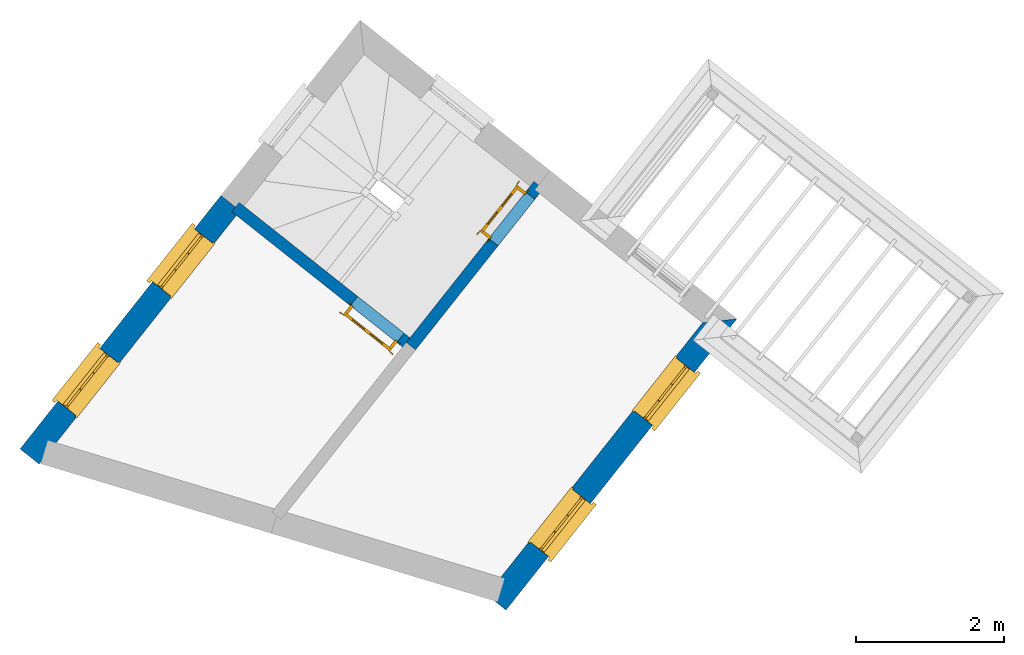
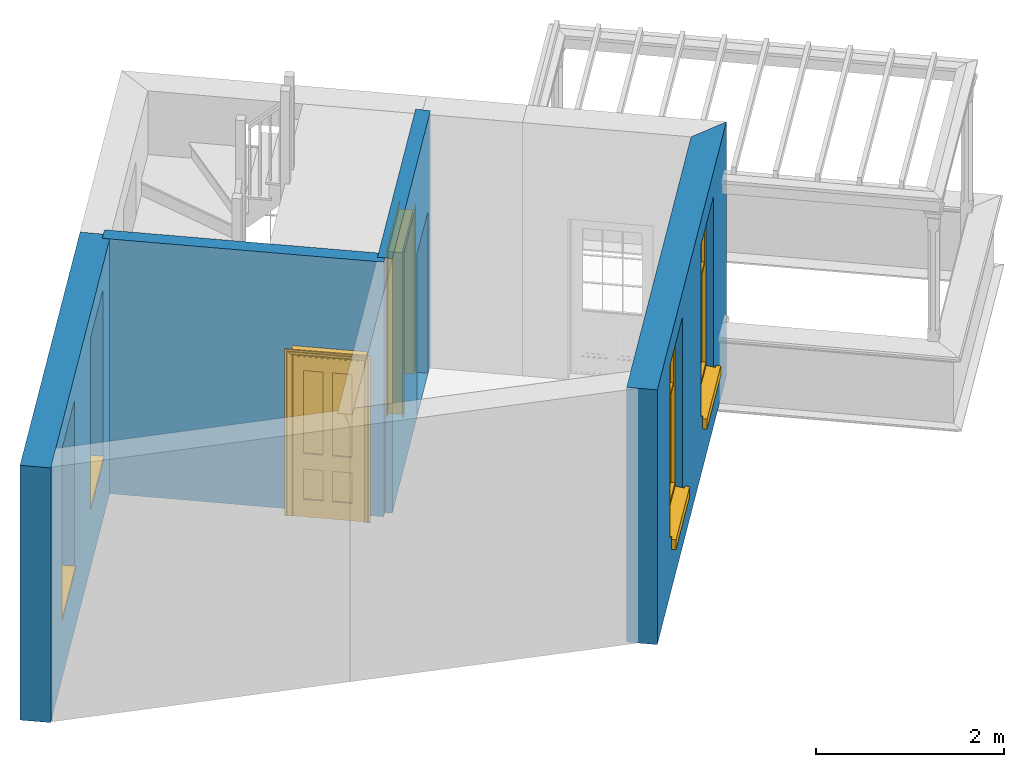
# One storey, part 2 of 6: 4 walls, 4 windows, 2 doors, 6 openings.
"""IFC4 building model written with IfcOpenShell, lengths in metres."""

from ifc_helpers import new_model, si_unit, frame, origin, origin_with_axes, place, context, subcontext, project, spatial, polyline, outline, extrude, faceted_brep, source, transform, mapped, material, layer, layer_set, layer_usage, type_object, type_shapes, element, fill, save


model = new_model("IFC4")

# Units and contexts
model_context = context("Model", 3, world=origin_with_axes())
body_context = subcontext(model_context, "Body", "Model", "MODEL_VIEW")
ifc_project = project(units=[si_unit("PLANEANGLEUNIT", "RADIAN"), si_unit("MASSUNIT", "GRAM", prefix="KILO"), si_unit("FORCEUNIT", "NEWTON", prefix="KILO"), si_unit("LENGTHUNIT", "METRE"), si_unit("AREAUNIT", "SQUARE_METRE"), si_unit("VOLUMEUNIT", "CUBIC_METRE")], contexts=[model_context, model_context])

# Sites, building, storey
site_1_placement = place(None, origin_with_axes())
site_1 = spatial("IfcSite", under=ifc_project, at=site_1_placement, Name="Tamar")
site_2_placement = place(site_1_placement, origin_with_axes())
site_2 = spatial("IfcSite", under=site_1, at=site_2_placement, Name="Site plot-5", CompositionType="ELEMENT")
building_placement = place(None, origin_with_axes())
building = spatial("IfcBuilding", under=site_2, at=building_placement, Name="Building plot-5", CompositionType="ELEMENT")
storey_placement = place(None, frame((0.0, 0.0, 26.85), z_axis=(0.0, 0.0, 1.0), x_axis=(1.0, 0.0, 0.0)))
storey = spatial("IfcBuildingStorey", under=building, at=storey_placement, Name="plot-5 1", CompositionType="ELEMENT", Elevation=26.85)

# Wall, openings, windows
ifc_material_1 = material(Name="Masonry")
ifc_layer_1 = layer(ifc_material_1, 0.33, ventilated=False)
ifc_layer_set_1 = layer_set([ifc_layer_1], Name="exterior_0.08_0.25")
ifc_layer_usage_1 = layer_usage(ifc_layer_set_1, "AXIS2", "POSITIVE", -0.25)
wall_type_1 = type_object("IfcWallType", Name="exterior_0.08_0.25", PredefinedType="SOLIDWALL", material=ifc_layer_set_1)
wall_1_placement = place(storey_placement, frame((231.403804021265, 270.295503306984, 0.0), z_axis=(0.0, 0.0, 1.0), x_axis=(0.621192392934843, 0.783658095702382, 0.0)))
wall_1 = element("IfcWall", 1, at=wall_1_placement, inside=storey, type_object=wall_type_1, material=ifc_layer_usage_1, Name="exterior", context=body_context, shape_type="SweptSolid", body=[
    extrude(outline(polyline([(-0.249999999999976, 0.0800000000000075), (-0.249999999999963, -0.249999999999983), (4.7647319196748, -0.249999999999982), (4.43473191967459, 0.0799999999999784), (-0.249999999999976, 0.0800000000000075)])), origin_with_axes(), (0.0, 0.0, 1.0), 3.3),
])
opening_1_placement = place(wall_1_placement, frame((0.673682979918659, 0.0, 0.75)))
opening_1 = element("IfcOpeningElement", 2, at=opening_1_placement, cuts=wall_1, Name="My Opening", ObjectType="Opening", context=body_context, shape_type="SweptSolid", body=[
    extrude(outline(polyline([(0.0, -0.269999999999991), (0.910000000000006, -0.270000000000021), (0.910000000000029, 1.1), (2.20934381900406e-14, 1.10000000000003), (0.0, -0.269999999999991)])), origin_with_axes(), (0.0, 0.0, 1.0), 2.23),
])
opening_2_placement = place(wall_1_placement, frame((2.93104893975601, 0.0, 0.75)))
opening_2 = element("IfcOpeningElement", 3, at=opening_2_placement, cuts=wall_1, Name="My Opening", ObjectType="Opening", context=body_context, shape_type="SweptSolid", body=[
    extrude(outline(polyline([(0.0, -0.269999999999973), (0.910000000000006, -0.270000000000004), (0.910000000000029, 1.10000000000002), (2.22044604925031e-14, 1.10000000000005), (0.0, -0.269999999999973)])), origin_with_axes(), (0.0, 0.0, 1.0), 2.23),
])
window_type = type_object("IfcWindowType", Name="sash_big_taller", PartitioningType="DOUBLE_PANEL_HORIZONTAL", PredefinedType="NOTDEFINED")
shared_shape_1 = source(origin(), body_context, "Body", "Brep", [
    faceted_brep([(0.033125, 0.145, 1.385209), (0.01, 0.145, 1.385209), (0.033125, 0.145, 1.786042), (0.876875, 0.145, 1.385209), (0.876875, 0.145, 1.786042), (0.9, 0.145, 1.385209), (0.876875, 0.145, 1.796042), (0.876875, 0.145, 2.196875), (0.9, 0.145, 2.22), (0.033125, 0.145, 2.196875), (0.033125, 0.145, 1.796042), (0.01, 0.145, 2.22), (0.876875, 0.115, 1.786042), (0.876875, 0.115, 1.385209), (0.9, 0.115, 1.347084), (0.033125, 0.115, 2.196875), (0.01, 0.115, 2.22), (0.033125, 0.115, 1.796042), (0.01, 0.115, 1.347084), (0.033125, 0.115, 1.385209), (0.033125, 0.115, 1.786042), (0.876875, 0.115, 2.196875), (0.876875, 0.115, 1.796042), (0.9, 0.115, 2.22), (0.033125, 0.145, 1.347084), (0.01, 0.145, 1.347084), (0.033125, 0.145, 0.94625), (0.876875, 0.145, 1.347084), (0.876875, 0.145, 0.94625), (0.9, 0.145, 1.347084), (0.876875, 0.145, 0.52625), (0.876875, 0.145, 0.125417), (0.9, 0.145, 0.077167), (0.033125, 0.145, 0.125417), (0.033125, 0.145, 0.52625), (0.01, 0.145, 0.077167), (-0.0425, 0.0, 0.01), (-0.0425, -0.05, 0.001667), (0.0, 0.0, 0.01), (0.9525, 0.0, 0.01), (0.91, 0.0, 0.01), (0.9525, -0.05, 0.001667), (-0.02, 0.33, 0.077167), (0.0, 0.33, 0.077167), (-0.02, 0.36, 0.077167), (0.0, 0.19, 0.077167), (0.01, 0.19, 0.077167), (0.91, 0.19, 0.077167), (0.91, 0.33, 0.077167), (0.9, 0.19, 0.077167), (0.93, 0.33, 0.077167), (0.93, 0.36, 0.077167), (0.01, 0.175, 1.385209), (0.9, 0.175, 1.385209), (0.876875, 0.175, 0.125417), (0.876875, 0.175, 0.52625), (0.9, 0.175, 0.077167), (0.876875, 0.175, 0.94625), (0.876875, 0.175, 1.347084), (0.033125, 0.175, 0.125417), (0.01, 0.175, 0.077167), (0.033125, 0.175, 0.52625), (0.033125, 0.175, 1.347084), (0.033125, 0.175, 0.94625), (-0.02, 0.33, 0.052167), (-0.02, 0.36, 0.052167), (0.93, 0.36, 0.052167), (0.93, 0.33, 0.052167), (0.91, 0.33, 0.052167), (0.0, 0.33, 0.052167), (0.91, 0.1, 0.026667), (0.0, 0.1, 0.026667), (-0.0425, -0.05, -0.123333), (0.9525, -0.05, -0.123333), (-0.0425, 0.0, -0.123333), (0.9525, 0.0, -0.123333), (0.01, 0.19, 2.22), (0.9, 0.19, 2.22), (0.0, 0.19, 2.23), (0.91, 0.19, 2.23), (0.01, 0.1, 0.077167), (0.9, 0.1, 0.077167), (0.592292, 0.145, 0.125417), (0.592292, 0.175, 0.125417), (0.317708, 0.175, 0.125417), (0.317708, 0.145, 0.125417), (0.592292, 0.145, 0.53625), (0.317708, 0.145, 0.53625), (0.317708, 0.145, 0.52625), (0.592292, 0.145, 0.52625), (0.592292, 0.175, 0.53625), (0.317708, 0.175, 0.53625), (0.592292, 0.115, 1.796042), (0.592292, 0.145, 1.796042), (0.317708, 0.145, 1.796042), (0.317708, 0.115, 1.796042), (0.317708, 0.115, 1.786042), (0.592292, 0.115, 1.786042), (0.317708, 0.145, 1.786042), (0.592292, 0.145, 1.786042), (0.602292, 0.115, 1.786042), (0.592292, 0.115, 1.385209), (0.602292, 0.115, 1.385209), (0.602292, 0.145, 1.385209), (0.592292, 0.145, 1.385209), (0.602292, 0.145, 1.786042), (0.876875, 0.145, 0.53625), (0.876875, 0.175, 0.53625), (0.602292, 0.175, 0.53625), (0.602292, 0.145, 0.53625), (0.317708, 0.175, 0.52625), (0.307708, 0.175, 0.125417), (0.307708, 0.175, 0.52625), (0.602292, 0.175, 0.52625), (0.602292, 0.175, 0.125417), (0.592292, 0.175, 0.52625), (0.307708, 0.175, 0.53625), (0.033125, 0.175, 0.53625), (0.317708, 0.175, 1.347084), (0.317708, 0.175, 0.94625), (0.307708, 0.175, 0.94625), (0.307708, 0.175, 1.347084), (0.602292, 0.175, 1.347084), (0.602292, 0.175, 0.94625), (0.592292, 0.175, 0.94625), (0.592292, 0.175, 1.347084), (0.307708, 0.145, 0.52625), (0.307708, 0.145, 0.125417), (0.307708, 0.145, 0.53625), (0.033125, 0.145, 0.53625), (0.307708, 0.145, 1.347084), (0.307708, 0.145, 0.94625), (0.592292, 0.145, 1.347084), (0.592292, 0.145, 0.94625), (0.317708, 0.145, 0.94625), (0.317708, 0.145, 1.347084), (0.602292, 0.145, 0.94625), (0.602292, 0.145, 1.347084), (0.602292, 0.145, 0.52625), (0.602292, 0.145, 0.125417), (0.307708, 0.115, 1.796042), (0.307708, 0.115, 1.786042), (0.307708, 0.115, 1.385209), (0.317708, 0.115, 1.385209), (0.317708, 0.115, 2.196875), (0.307708, 0.115, 2.196875), (0.602292, 0.115, 2.196875), (0.592292, 0.115, 2.196875), (0.602292, 0.115, 1.796042), (0.602292, 0.145, 1.796042), (0.307708, 0.145, 1.796042), (0.307708, 0.145, 2.196875), (0.317708, 0.145, 2.196875), (0.592292, 0.145, 2.196875), (0.602292, 0.145, 2.196875), (0.307708, 0.145, 1.786042), (0.317708, 0.145, 1.385209), (0.307708, 0.145, 1.385209), (0.876875, 0.175, 0.93625), (0.033125, 0.175, 0.93625), (0.033125, 0.145, 0.93625), (0.876875, 0.145, 0.93625), (0.91, 0.1, 2.23), (0.9, 0.1, 2.22), (0.01, 0.1, 2.22), (0.0, 0.1, 2.23), (0.91, 0.0, 0.0), (0.0, 0.0, 0.0), (0.91, 0.33, 0.0), (0.0, 0.33, 0.0), (0.317708, 0.145, 0.93625), (0.592292, 0.145, 0.93625), (0.317708, 0.175, 0.93625), (0.307708, 0.175, 0.93625), (0.602292, 0.175, 0.93625), (0.592292, 0.175, 0.93625), (0.307708, 0.145, 0.93625), (0.602292, 0.145, 0.93625)], [[[0, 1, 2]], [[3, 4, 5]], [[6, 7, 8]], [[9, 10, 11]], [[12, 13, 14]], [[15, 16, 17]], [[18, 19, 20]], [[21, 22, 23]], [[24, 25, 26]], [[27, 28, 29]], [[30, 31, 32]], [[33, 34, 35]], [[14, 27, 29]], [[25, 24, 18]], [[36, 37, 38]], [[39, 40, 41]], [[42, 43, 44]], [[45, 46, 43]], [[47, 48, 49]], [[50, 51, 48]], [[1, 0, 52]], [[5, 53, 3]], [[54, 55, 56]], [[57, 58, 53]], [[59, 60, 61]], [[62, 63, 52]], [[48, 43, 46, 49]], [[51, 44, 43, 48]], [[64, 42, 44, 65]], [[65, 44, 51, 66]], [[66, 51, 50, 67]], [[65, 66, 68, 69]], [[60, 56, 49, 46]], [[70, 71, 38, 40]], [[37, 41, 40, 38]], [[37, 72, 73, 41]], [[74, 75, 73, 72]], [[8, 11, 76, 77]], [[76, 78, 79, 77]], [[32, 35, 80, 81]], [[81, 80, 71, 70]], [[82, 83, 84, 85]], [[86, 87, 88, 89]], [[86, 90, 91, 87]], [[92, 93, 94, 95]], [[92, 95, 96, 97]], [[96, 98, 99, 97]], [[100, 97, 101, 102]], [[103, 104, 99, 105]], [[97, 99, 104, 101]], [[102, 103, 105, 100]], [[106, 107, 108, 109]], [[110, 84, 111, 112]], [[113, 114, 83, 115]], [[116, 112, 61, 117]], [[90, 115, 110, 91]], [[118, 119, 120, 121]], [[122, 123, 124, 125]], [[113, 108, 107, 55]], [[126, 112, 111, 127]], [[34, 61, 112, 126]], [[89, 115, 83, 82]], [[88, 110, 115, 89]], [[85, 84, 110, 88]], [[128, 116, 117, 129]], [[130, 121, 120, 131]], [[132, 125, 124, 133]], [[134, 119, 118, 135]], [[136, 123, 122, 137]], [[138, 113, 55, 30]], [[139, 114, 113, 138]], [[138, 30, 106, 109]], [[88, 126, 127, 85]], [[138, 89, 82, 139]], [[137, 132, 133, 136]], [[128, 129, 34, 126]], [[135, 130, 131, 134]], [[140, 17, 20, 141]], [[96, 141, 142, 143]], [[144, 145, 140, 95]], [[146, 147, 92, 148]], [[100, 12, 22, 148]], [[149, 6, 4, 105]], [[94, 150, 151, 152]], [[149, 93, 153, 154]], [[99, 98, 94, 93]], [[155, 2, 10, 150]], [[156, 157, 155, 98]], [[141, 155, 157, 142]], [[20, 2, 155, 141]], [[143, 156, 98, 96]], [[140, 150, 10, 17]], [[145, 151, 150, 140]], [[147, 153, 93, 92]], [[95, 94, 152, 144]], [[22, 6, 149, 148]], [[148, 149, 154, 146]], [[100, 105, 4, 12]], [[109, 86, 89, 138]], [[108, 113, 115, 90]], [[91, 110, 112, 116]], [[87, 128, 126, 88]], [[97, 100, 148, 92]], [[141, 96, 95, 140]], [[98, 155, 150, 94]], [[105, 99, 93, 149]], [[143, 101, 104, 156]], [[135, 118, 125, 132]], [[144, 152, 153, 147]], [[127, 111, 59, 33]], [[15, 9, 151, 145]], [[146, 154, 7, 21]], [[31, 54, 114, 139]], [[36, 74, 72, 37]], [[39, 41, 73, 75]], [[18, 14, 101, 143]], [[23, 16, 144, 147]], [[83, 56, 60, 84]], [[52, 53, 125, 118]], [[53, 52, 156, 104]], [[11, 8, 153, 152]], [[14, 18, 135, 132]], [[2, 1, 11, 10]], [[8, 5, 4, 6]], [[57, 53, 56, 158]], [[60, 52, 63, 159]], [[26, 25, 35, 160]], [[32, 29, 28, 161]], [[14, 23, 22, 12]], [[18, 20, 17, 16]], [[19, 0, 2, 20]], [[17, 10, 9, 15]], [[12, 4, 3, 13]], [[21, 7, 6, 22]], [[27, 58, 57, 28]], [[30, 55, 54, 31]], [[33, 59, 61, 34]], [[26, 63, 62, 24]], [[5, 8, 77, 53]], [[76, 11, 1, 52]], [[46, 45, 78, 76]], [[49, 77, 79, 47]], [[70, 162, 163, 81]], [[71, 80, 164, 165]], [[19, 142, 157, 0]], [[102, 13, 3, 103]], [[121, 130, 24, 62]], [[29, 32, 81, 14]], [[80, 35, 25, 18]], [[60, 46, 76, 52]], [[77, 49, 56, 53]], [[23, 14, 81, 163]], [[16, 164, 80, 18]], [[35, 85, 127]], [[127, 33, 35]], [[139, 82, 32]], [[32, 31, 139]], [[32, 82, 85, 35]], [[102, 101, 14]], [[14, 13, 102]], [[18, 143, 142]], [[142, 19, 18]], [[146, 21, 23]], [[23, 147, 146]], [[16, 15, 145]], [[145, 144, 16]], [[11, 152, 151]], [[151, 9, 11]], [[154, 153, 8]], [[8, 7, 154]], [[23, 163, 164, 16]], [[162, 165, 164, 163]], [[52, 118, 121]], [[121, 62, 52]], [[125, 53, 122]], [[58, 122, 53]], [[27, 137, 122, 58]], [[56, 83, 114]], [[114, 54, 56]], [[111, 84, 60]], [[60, 59, 111]], [[137, 27, 14]], [[14, 132, 137]], [[130, 135, 18]], [[18, 24, 130]], [[157, 156, 52]], [[52, 0, 157]], [[103, 3, 53]], [[53, 104, 103]], [[79, 78, 165, 162]], [[78, 45, 71, 165]], [[162, 70, 47, 79]], [[166, 75, 74, 167]], [[68, 66, 67]], [[48, 68, 67, 50]], [[69, 64, 65]], [[42, 64, 69, 43]], [[69, 68, 168, 169]], [[70, 68, 48, 47]], [[166, 168, 68, 70]], [[43, 69, 71, 45]], [[69, 169, 167, 71]], [[168, 166, 167, 169]], [[38, 167, 74, 36]], [[71, 167, 38]], [[39, 75, 166, 40]], [[40, 166, 70]], [[133, 134, 170, 171]], [[133, 124, 119, 134]], [[28, 57, 123, 136]], [[172, 91, 116, 173]], [[174, 108, 90, 175]], [[120, 173, 159, 63]], [[124, 175, 172, 119]], [[174, 123, 57, 158]], [[176, 173, 116, 128]], [[160, 159, 173, 176]], [[171, 175, 90, 86]], [[170, 172, 175, 171]], [[87, 91, 172, 170]], [[131, 120, 63, 26]], [[177, 174, 158, 161]], [[109, 108, 174, 177]], [[177, 161, 28, 136]], [[170, 176, 128, 87]], [[177, 171, 86, 109]], [[131, 26, 160, 176]], [[136, 133, 171, 177]], [[123, 174, 175, 124]], [[119, 172, 173, 120]], [[134, 131, 176, 170]], [[129, 117, 159, 160]], [[161, 158, 107, 106]], [[35, 34, 129]], [[35, 129, 160]], [[32, 106, 30]], [[32, 161, 106]], [[56, 55, 107]], [[56, 107, 158]], [[60, 117, 61]], [[60, 159, 117]]]),
])
type_shapes(window_type, [shared_shape_1])
window_1_placement = place(storey_placement, frame((232.03387844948, 270.655718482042, 0.75), z_axis=(0.0, 0.0, 1.0), x_axis=(0.565285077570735, 0.713128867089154, 0.0)))
window_1 = element("IfcWindow", 4, at=window_1_placement, inside=storey, type_object=window_type, Name="bedroom outside window", OverallHeight=2.23, OverallWidth=0.91, context=body_context, shape_type="MappedRepresentation", body=[
    mapped(shared_shape_1, transform((0.0, 0.0, 0.0), scale=1.0)),
])
fill(opening_1, window_1)
window_2_placement = place(storey_placement, frame((233.436137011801, 272.424721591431, 0.75), z_axis=(0.0, 0.0, 1.0), x_axis=(0.565285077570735, 0.713128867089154, 0.0)))
window_2 = element("IfcWindow", 5, at=window_2_placement, inside=storey, type_object=window_type, Name="bedroom outside window", OverallHeight=2.23, OverallWidth=0.91, context=body_context, shape_type="MappedRepresentation", body=[
    mapped(shared_shape_1, transform((0.0, 0.0, 0.0), scale=1.0)),
])
fill(opening_2, window_2)

wall_2_placement = place(storey_placement, frame((227.79534435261, 275.381384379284, 0.0), z_axis=(0.0, 0.0, 1.0), x_axis=(-0.621192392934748, -0.783658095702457, 0.0)))
wall_2 = element("IfcWall", 6, at=wall_2_placement, inside=storey, type_object=wall_type_1, material=ifc_layer_usage_1, Name="exterior", context=body_context, shape_type="SweptSolid", body=[
    extrude(outline(polyline([(2.39305944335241e-14, 0.079999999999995), (-8.25852849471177e-14, -0.249999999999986), (4.36249502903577, -0.249999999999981), (4.36249502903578, 0.0800000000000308), (2.39305944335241e-14, 0.079999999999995)])), origin_with_axes(), (0.0, 0.0, 1.0), 3.3),
])
opening_3_placement = place(wall_2_placement, frame((0.573123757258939, 0.0, 0.75)))
opening_3 = element("IfcOpeningElement", 7, at=opening_3_placement, cuts=wall_2, Name="My Opening", ObjectType="Opening", context=body_context, shape_type="SweptSolid", body=[
    extrude(outline(polyline([(0.0, -0.270000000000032), (0.909999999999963, -0.270000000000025), (0.909999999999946, 1.09999999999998), (-1.69864122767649e-14, 1.09999999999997), (0.0, -0.270000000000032)])), origin_with_axes(), (0.0, 0.0, 1.0), 2.23),
])
opening_4_placement = place(wall_2_placement, frame((2.62937127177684, 0.0, 0.75)))
opening_4 = element("IfcOpeningElement", 8, at=opening_4_placement, cuts=wall_2, Name="My Opening", ObjectType="Opening", context=body_context, shape_type="SweptSolid", body=[
    extrude(outline(polyline([(0.0, -0.270000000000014), (0.909999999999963, -0.270000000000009), (0.909999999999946, 1.1), (-1.68753899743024e-14, 1.09999999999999), (0.0, -0.270000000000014)])), origin_with_axes(), (0.0, 0.0, 1.0), 2.23),
])
window_3_placement = place(storey_placement, frame((227.227736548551, 275.099973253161, 0.75), z_axis=(0.0, 0.0, 1.0), x_axis=(-0.565285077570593, -0.71312886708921, 0.0)))
window_3 = element("IfcWindow", 9, at=window_3_placement, inside=storey, type_object=window_type, Name="bedroom outside window", OverallHeight=2.23, OverallWidth=0.91, context=body_context, shape_type="MappedRepresentation", body=[
    mapped(shared_shape_1, transform((0.0, 0.0, 0.0), scale=1.0)),
])
fill(opening_3, window_3)
window_4_placement = place(storey_placement, frame((225.950411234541, 273.488578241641, 0.75), z_axis=(0.0, 0.0, 1.0), x_axis=(-0.565285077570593, -0.71312886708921, 0.0)))
window_4 = element("IfcWindow", 10, at=window_4_placement, inside=storey, type_object=window_type, Name="bedroom outside window", OverallHeight=2.23, OverallWidth=0.91, context=body_context, shape_type="MappedRepresentation", body=[
    mapped(shared_shape_1, transform((0.0, 0.0, 0.0), scale=1.0)),
])
fill(opening_4, window_4)

# Wall, opening, door
ifc_material_2 = material(Name="Masonry")
ifc_layer_2 = layer(ifc_material_2, 0.16, ventilated=False)
ifc_layer_set_2 = layer_set([ifc_layer_2], Name="interior_0.08_0.08")
ifc_layer_usage_2 = layer_usage(ifc_layer_set_2, "AXIS2", "POSITIVE", -0.08)
wall_type_2 = type_object("IfcWallType", Name="interior_0.08_0.08", PredefinedType="SOLIDWALL", material=ifc_layer_set_2)
wall_3_placement = place(storey_placement, frame((230.162239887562, 273.505186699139, 0.0), z_axis=(0.0, 0.0, 1.0), x_axis=(0.62119239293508, 0.783658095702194, 0.0)))
wall_3 = element("IfcWall", 11, at=wall_3_placement, inside=storey, type_object=wall_type_2, material=ifc_layer_usage_2, Name="interior", context=body_context, shape_type="SweptSolid", body=[
    extrude(outline(polyline([(-9.88940900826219e-15, 0.079999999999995), (9.89920618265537e-15, -0.079999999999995), (2.77068773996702, -0.0799999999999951), (2.770687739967, 0.0799999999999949), (-9.88940900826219e-15, 0.079999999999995)])), origin_with_axes(), (0.0, 0.0, 1.0), 3.3),
])
opening_5_placement = place(wall_3_placement, frame((1.790687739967, 0.0, 0.0199999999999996)))
opening_5 = element("IfcOpeningElement", 12, at=opening_5_placement, cuts=wall_3, Name="My Opening", ObjectType="Opening", context=body_context, shape_type="SweptSolid", body=[
    extrude(outline(polyline([(0.0, -0.100000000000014), (0.80000000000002, -0.100000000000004), (0.800000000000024, 1.1), (2.88657986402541e-15, 1.1), (0.0, -0.100000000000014)])), origin_with_axes(), (0.0, 0.0, 1.0), 2.1),
])
door_type = type_object("IfcDoorType", Name="door_inside", OperationType="SINGLE_SWING_LEFT", PredefinedType="NOTDEFINED")
shared_shape_2 = source(origin(), body_context, "Body", "Brep", [
    faceted_brep([(0.773, 0.33, 1.895), (0.66, 0.33, 1.895), (0.66, 0.33, 2.073), (0.773, 0.33, 2.073), (0.773, 0.33, 0.82), (0.66, 0.33, 0.82), (0.45, 0.33, 1.895), (0.45, 0.33, 2.073), (0.773, 0.33, 0.62), (0.66, 0.33, 0.62), (0.66, 0.315, 0.82), (0.66, 0.315, 1.895), (0.45, 0.315, 1.895), (0.35, 0.33, 1.895), (0.35, 0.33, 2.073), (0.773, 0.33, 0.225), (0.66, 0.33, 0.225), (0.45, 0.33, 0.62), (0.45, 0.33, 0.82), (0.45, 0.315, 0.82), (0.35, 0.33, 0.82), (0.14, 0.33, 2.073), (0.14, 0.33, 1.895), (0.773, 0.33, 0.0), (0.66, 0.33, 0.0), (0.66, 0.315, 0.225), (0.66, 0.315, 0.62), (0.45, 0.315, 0.62), (0.35, 0.33, 0.62), (0.35, 0.315, 0.82), (0.35, 0.315, 1.895), (0.14, 0.315, 1.895), (0.027, 0.33, 2.073), (0.027, 0.33, 1.895), (0.773, 0.292, 0.0), (0.66, 0.292, 0.0), (0.45, 0.33, 0.0), (0.45, 0.33, 0.225), (0.45, 0.315, 0.225), (0.35, 0.33, 0.225), (0.14, 0.33, 0.82), (0.14, 0.33, 0.62), (0.14, 0.315, 0.82), (0.027, 0.33, 0.82), (0.773, 0.292, 0.225), (0.66, 0.292, 0.225), (0.45, 0.292, 0.0), (0.35, 0.33, 0.0), (0.35, 0.315, 0.225), (0.35, 0.315, 0.62), (0.14, 0.315, 0.62), (0.027, 0.33, 0.62), (0.773, 0.292, 0.62), (0.66, 0.292, 0.62), (0.45, 0.292, 0.225), (0.35, 0.292, 0.0), (0.14, 0.33, 0.225), (0.14, 0.33, 0.0), (0.14, 0.315, 0.225), (0.027, 0.33, 0.225), (0.773, 0.292, 0.82), (0.66, 0.292, 0.82), (0.66, 0.307, 0.62), (0.66, 0.307, 0.225), (0.45, 0.307, 0.225), (0.35, 0.292, 0.225), (0.14, 0.292, 0.0), (0.027, 0.33, 0.0), (0.773, 0.292, 1.895), (0.66, 0.292, 1.895), (0.45, 0.292, 0.62), (0.45, 0.292, 0.82), (0.45, 0.307, 0.62), (0.35, 0.292, 0.62), (0.14, 0.292, 0.225), (0.027, 0.292, 0.0), (0.773, 0.292, 2.073), (0.66, 0.292, 2.073), (0.66, 0.307, 1.895), (0.66, 0.307, 0.82), (0.45, 0.307, 0.82), (0.35, 0.292, 0.82), (0.35, 0.307, 0.62), (0.35, 0.307, 0.225), (0.14, 0.307, 0.225), (0.027, 0.292, 0.225), (0.45, 0.292, 1.895), (0.45, 0.292, 2.073), (0.45, 0.307, 1.895), (0.35, 0.292, 1.895), (0.14, 0.292, 0.82), (0.14, 0.292, 0.62), (0.14, 0.307, 0.62), (0.027, 0.292, 0.62), (0.35, 0.292, 2.073), (0.35, 0.307, 1.895), (0.35, 0.307, 0.82), (0.14, 0.307, 0.82), (0.027, 0.292, 0.82), (0.14, 0.292, 2.073), (0.14, 0.292, 1.895), (0.14, 0.307, 1.895), (0.027, 0.292, 1.895), (0.027, 0.292, 2.073), (0.02, 0.335, 0.0), (0.005, 0.34, 0.0), (0.005, 0.34, 2.095), (0.02, 0.335, 2.08), (0.02, 0.33, 0.0), (0.0, 0.335, 0.0), (0.0, 0.335, 2.1), (0.795, 0.34, 2.095), (0.78, 0.335, 2.08), (0.02, 0.33, 2.08), (0.0, 0.33, 0.0), (-0.032, 0.345, 0.0), (-0.032, 0.345, 2.132), (0.8, 0.335, 2.1), (0.795, 0.34, 0.0), (0.78, 0.335, 0.0), (0.78, 0.33, 2.08), (0.04, 0.29, 0.0), (0.025, 0.29, 0.0), (0.025, 0.29, 2.075), (0.04, 0.29, 2.06), (-0.04, 0.34, 0.0), (-0.04, 0.34, 2.14), (0.832, 0.345, 2.132), (0.8, 0.335, 0.0), (0.78, 0.33, 0.0), (0.8, 0.33, 0.0), (0.86, 0.33, 0.0), (0.86, 0.33, 2.16), (0.8, 0.33, 2.1), (-0.06, 0.33, 2.16), (0.0, 0.33, 2.1), (-0.06, 0.33, 0.0), (-0.04, 0.345, 0.0), (-0.04, 0.345, 2.14), (0.84, 0.34, 2.14), (0.832, 0.345, 0.0), (0.84, 0.34, 0.0), (0.86, 0.345, 0.0), (0.86, 0.345, 2.16), (-0.06, 0.345, 2.16), (-0.06, 0.345, 0.0), (0.84, 0.345, 0.0), (0.84, 0.345, 2.14), (-0.025, 0.155, 0.0), (-0.025, 0.16, 0.0), (-0.025, 0.16, 2.125), (-0.025, 0.155, 2.125), (-0.017, 0.155, 0.0), (-0.017, 0.155, 2.117), (0.825, 0.16, 2.125), (0.825, 0.155, 2.125), (0.825, 0.155, 0.0), (0.845, 0.155, 0.0), (-0.045, 0.155, 2.145), (-0.045, 0.155, 0.0), (0.845, 0.155, 2.145), (0.015, 0.165, 0.0), (0.015, 0.165, 2.085), (0.817, 0.155, 2.117), (0.825, 0.16, 0.0), (0.845, 0.17, 0.0), (0.845, 0.17, 2.145), (-0.045, 0.17, 2.145), (-0.045, 0.17, 0.0), (0.02, 0.16, 0.0), (0.02, 0.16, 2.08), (0.785, 0.165, 2.085), (0.817, 0.155, 0.0), (0.8, 0.17, 0.0), (0.8, 0.17, 2.1), (0.0, 0.17, 2.1), (0.0, 0.17, 0.0), (0.035, 0.165, 0.0), (0.035, 0.165, 2.065), (0.78, 0.16, 2.08), (0.785, 0.165, 0.0), (0.775, 0.29, 2.075), (0.76, 0.29, 2.06), (0.035, 0.17, 2.065), (0.035, 0.17, 0.0), (0.765, 0.165, 2.065), (0.78, 0.16, 0.0), (0.765, 0.17, 0.0), (0.765, 0.17, 2.065), (0.765, 0.165, 0.0), (0.04, 0.17, 2.06), (0.04, 0.17, 0.0), (0.76, 0.17, 2.06), (0.76, 0.17, 0.0), (0.76, 0.29, 0.0), (0.775, 0.29, 0.0), (0.025, 0.33, 0.0), (0.025, 0.33, 2.075), (0.775, 0.33, 0.0), (0.775, 0.33, 2.075)], [[[0, 1, 2, 3]], [[1, 0, 4, 5]], [[1, 6, 7, 2]], [[8, 9, 5, 4]], [[1, 5, 10, 11]], [[6, 1, 11, 12]], [[6, 13, 14, 7]], [[15, 16, 9, 8]], [[9, 17, 18, 5]], [[5, 18, 19, 10]], [[10, 19, 12, 11]], [[18, 6, 12, 19]], [[18, 20, 13, 6]], [[21, 14, 13, 22]], [[23, 24, 16, 15]], [[9, 16, 25, 26]], [[17, 9, 26, 27]], [[17, 28, 20, 18]], [[13, 20, 29, 30]], [[22, 13, 30, 31]], [[32, 21, 22, 33]], [[34, 35, 24, 23]], [[24, 36, 37, 16]], [[16, 37, 38, 25]], [[25, 38, 27, 26]], [[37, 17, 27, 38]], [[37, 39, 28, 17]], [[40, 20, 28, 41]], [[20, 40, 42, 29]], [[31, 30, 29, 42]], [[40, 22, 31, 42]], [[33, 22, 40, 43]], [[35, 34, 44, 45]], [[35, 46, 36, 24]], [[36, 47, 39, 37]], [[28, 39, 48, 49]], [[41, 28, 49, 50]], [[43, 40, 41, 51]], [[45, 44, 52, 53]], [[46, 35, 45, 54]], [[46, 55, 47, 36]], [[56, 39, 47, 57]], [[39, 56, 58, 48]], [[50, 49, 48, 58]], [[56, 41, 50, 58]], [[51, 41, 56, 59]], [[53, 52, 60, 61]], [[45, 53, 62, 63]], [[54, 45, 63, 64]], [[55, 46, 54, 65]], [[55, 66, 57, 47]], [[59, 56, 57, 67]], [[61, 60, 68, 69]], [[70, 53, 61, 71]], [[53, 70, 72, 62]], [[72, 64, 63, 62]], [[70, 54, 64, 72]], [[65, 54, 70, 73]], [[65, 74, 66, 55]], [[67, 57, 66, 75]], [[69, 68, 76, 77]], [[61, 69, 78, 79]], [[71, 61, 79, 80]], [[73, 70, 71, 81]], [[65, 73, 82, 83]], [[74, 65, 83, 84]], [[74, 85, 75, 66]], [[86, 69, 77, 87]], [[69, 86, 88, 78]], [[88, 80, 79, 78]], [[86, 71, 80, 88]], [[81, 71, 86, 89]], [[73, 81, 90, 91]], [[73, 91, 92, 82]], [[83, 82, 92, 84]], [[91, 74, 84, 92]], [[91, 93, 85, 74]], [[89, 86, 87, 94]], [[81, 89, 95, 96]], [[90, 81, 96, 97]], [[90, 98, 93, 91]], [[94, 99, 100, 89]], [[89, 100, 101, 95]], [[101, 97, 96, 95]], [[100, 90, 97, 101]], [[100, 102, 98, 90]], [[99, 103, 102, 100]], [[32, 103, 99, 21]], [[102, 103, 32, 33]], [[98, 102, 33, 43]], [[21, 99, 94, 14]], [[94, 87, 7, 14]], [[7, 87, 77, 2]], [[76, 3, 2, 77]], [[43, 51, 93, 98]], [[51, 59, 85, 93]], [[67, 75, 85, 59]], [[34, 23, 15, 44]], [[44, 15, 8, 52]], [[52, 8, 4, 60]], [[0, 68, 60, 4]], [[0, 3, 76, 68]], [[104, 105, 106, 107]], [[104, 108, 109, 105]], [[105, 109, 110, 106]], [[107, 106, 111, 112]], [[107, 113, 108, 104]], [[114, 109, 108]], [[109, 115, 116, 110]], [[106, 110, 117, 111]], [[112, 111, 118, 119]], [[113, 107, 112, 120]], [[121, 122, 123, 124]], [[115, 109, 114, 125]], [[115, 125, 126, 116]], [[110, 116, 127, 117]], [[111, 117, 128, 118]], [[118, 128, 129, 119]], [[120, 112, 119, 129]], [[130, 129, 128]], [[130, 131, 132, 133]], [[133, 132, 134, 135]], [[135, 134, 136, 114]], [[136, 125, 114]], [[125, 137, 138, 126]], [[116, 126, 139, 127]], [[117, 127, 140, 128]], [[141, 130, 128, 140]], [[131, 130, 141]], [[131, 142, 143, 132]], [[132, 143, 144, 134]], [[134, 144, 145, 136]], [[137, 125, 136, 145]], [[143, 142, 146]], [[143, 146, 147]], [[137, 145, 144]], [[143, 147, 138]], [[138, 137, 144]], [[143, 138, 144]], [[126, 138, 147, 139]], [[127, 139, 141, 140]], [[142, 131, 141, 146]], [[139, 147, 146, 141]], [[148, 149, 150, 151]], [[149, 152, 153, 150]], [[151, 150, 154, 155]], [[155, 156, 157]], [[158, 159, 148]], [[158, 148, 151]], [[155, 157, 160]], [[158, 151, 155]], [[155, 160, 158]], [[152, 161, 162, 153]], [[150, 153, 163, 154]], [[155, 154, 164, 156]], [[156, 164, 165, 157]], [[157, 165, 166, 160]], [[160, 166, 167, 158]], [[158, 167, 168, 159]], [[161, 169, 170, 162]], [[153, 162, 171, 163]], [[154, 163, 172, 164]], [[165, 164, 173]], [[165, 173, 174, 166]], [[166, 174, 175, 167]], [[167, 175, 176, 168]], [[169, 177, 178, 170]], [[162, 170, 179, 171]], [[163, 171, 180, 172]], [[172, 180, 173, 164]], [[124, 123, 181, 182]], [[183, 178, 177, 184]], [[170, 178, 185, 179]], [[171, 179, 186, 180]], [[187, 173, 180]], [[185, 188, 187, 189]], [[188, 185, 178, 183]], [[179, 185, 189, 186]], [[189, 187, 180, 186]], [[190, 183, 184, 191]], [[192, 188, 183, 190]], [[191, 184, 122, 121]], [[124, 190, 191, 121]], [[193, 187, 188, 192]], [[182, 192, 190, 124]], [[184, 176, 122]], [[194, 195, 187, 193]], [[192, 182, 194, 193]], [[161, 176, 184]], [[114, 108, 122, 176]], [[173, 187, 195]], [[152, 149, 176, 161]], [[169, 161, 184, 177]], [[196, 122, 108]], [[176, 175, 135, 114]], [[173, 195, 129, 130]], [[176, 149, 168]], [[123, 122, 196, 197]], [[196, 108, 113, 197]], [[175, 174, 133, 135]], [[198, 129, 195]], [[133, 174, 173, 130]], [[159, 168, 149, 148]], [[181, 123, 197, 199]], [[197, 113, 120, 199]], [[199, 120, 129, 198]], [[195, 181, 199, 198]], [[195, 194, 182, 181]]]),
])
type_shapes(door_type, [shared_shape_2])
door_1_placement = place(storey_placement, frame((231.352967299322, 274.846354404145, 0.0199999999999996), z_axis=(0.0, 0.0, 1.0), x_axis=(0.496953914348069, 0.626926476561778, 0.0)))
door_1 = element("IfcDoor", 13, at=door_1_placement, inside=storey, type_object=door_type, Name="bedroom inside door", OverallHeight=2.1, OverallWidth=0.8, context=body_context, shape_type="MappedRepresentation", body=[
    mapped(shared_shape_2, transform((0.0, 0.0, 0.0), scale=1.0)),
])
fill(opening_5, door_1)

wall_4_placement = place(storey_placement, frame((230.162239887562, 273.505186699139, 0.0), z_axis=(0.0, 0.0, 1.0), x_axis=(-0.783658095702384, 0.621192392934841, 0.0)))
wall_4 = element("IfcWall", 14, at=wall_4_placement, inside=storey, type_object=wall_type_2, material=ifc_layer_usage_2, Name="interior", context=body_context, shape_type="SweptSolid", body=[
    extrude(outline(polyline([(-3.12148945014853e-15, 0.0800000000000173), (3.16681376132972e-15, -0.0800000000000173), (3.02031657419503, -0.0800000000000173), (3.02031657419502, 0.0800000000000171), (-3.12148945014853e-15, 0.0800000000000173)])), origin_with_axes(), (0.0, 0.0, 1.0), 3.3),
])
opening_6_placement = place(wall_4_placement, frame((0.179999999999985, 0.0, 0.0199999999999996)))
opening_6 = element("IfcOpeningElement", 15, at=opening_6_placement, cuts=wall_4, Name="My Opening", ObjectType="Opening", context=body_context, shape_type="SweptSolid", body=[
    extrude(outline(polyline([(0.0, -0.0999999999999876), (0.800000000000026, -0.0999999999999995), (0.800000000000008, 1.09999999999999), (-1.74582570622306e-14, 1.1), (0.0, -0.0999999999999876)])), origin_with_axes(), (0.0, 0.0, 1.0), 2.1),
])
door_2_placement = place(storey_placement, frame((230.083300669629, 273.695367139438, 0.0199999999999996), z_axis=(0.0, 0.0, 1.0), x_axis=(-0.62692647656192, 0.496953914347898, 0.0)))
door_2 = element("IfcDoor", 16, at=door_2_placement, inside=storey, type_object=door_type, Name="bedroom inside door", OverallHeight=2.1, OverallWidth=0.8, context=body_context, shape_type="MappedRepresentation", body=[
    mapped(shared_shape_2, transform((0.0, 0.0, 0.0), scale=1.0)),
])
fill(opening_6, door_2)

save(model, "model.ifc")
